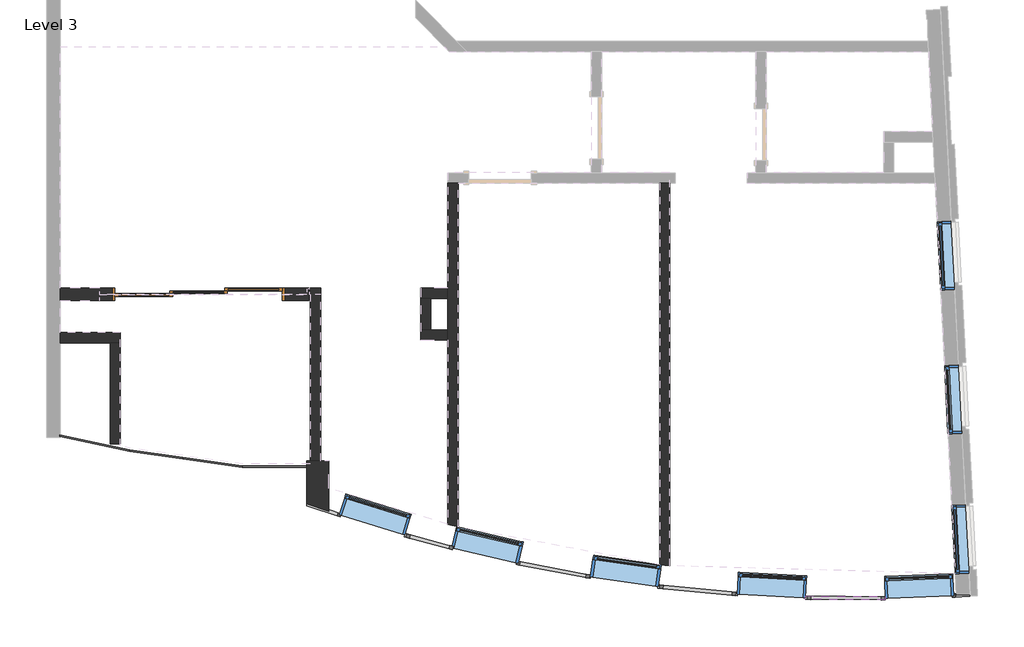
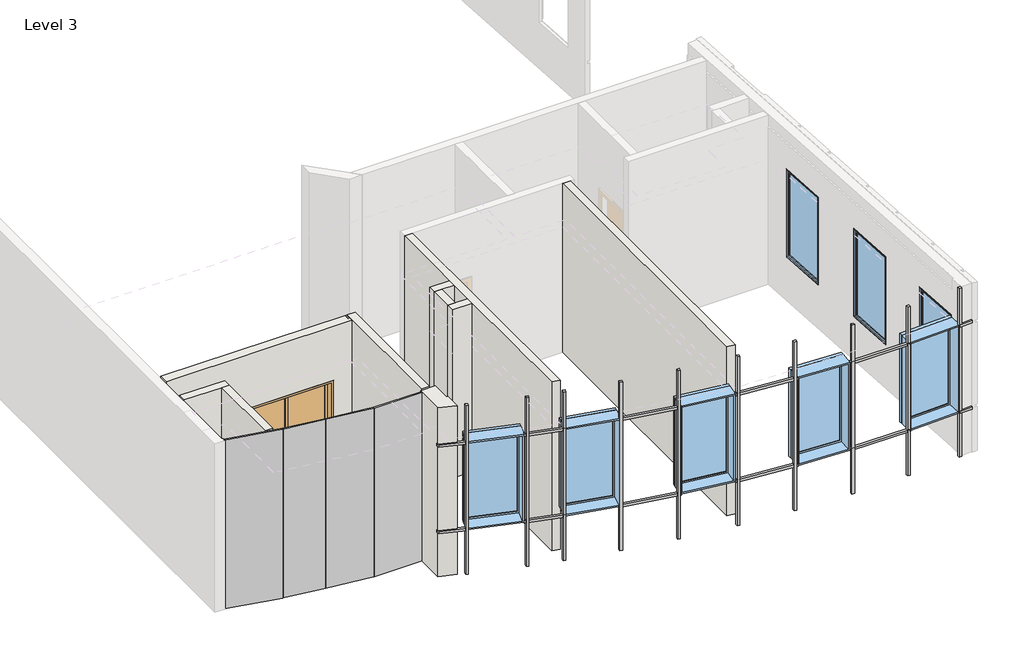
# One storey, part 1 of 5: 12 proxies, 11 walls, 8 windows, 4 plates, 1 door.
"""IFC4 building model written with IfcOpenShell, lengths in millimetres."""

from ifc_helpers import new_model, si_unit, point, frame, frame_2d, origin, place, context, project, spatial, polyline, circle_curve, trimmed, segment, composite_curve, outline, extrude, faceted_brep, transform, mapped, element, save
from ifc_brep_helpers import plane_surface, cylinder_surface, revolved_surface, advanced_brep
from components import sliding_door_3_panel_aus_type_1_135a2ec2, system_panel_glazed_6c35e85d, system_panel_glazed_aacc9fa0, system_panel_glazed_6f96cc8f, system_panel_glazed_6110bdf2, m_fixed_1000_x_1830mm_2_3397196e, m_fixed_1000_x_1830mm_2_ae03b894

model = new_model("IFC4")

# Units and contexts
model_context = context("Model", 3, world=origin())
ifc_project = project(units=[si_unit("LENGTHUNIT", "METRE", prefix="MILLI")], contexts=[model_context])

# Site, building, storey
site = spatial("IfcSite", under=ifc_project)
building = spatial("IfcBuilding", under=site)
storey = spatial("IfcBuildingStorey", under=building, Name="Level 3", Elevation=11500.0)

# Proxies
placement = place(None, origin())
element("IfcBuildingElementProxy", 1, Name="Reveal", ObjectType="Reveal", at=placement, inside=storey, context=model_context, shape_type="SweptSolid", body=[
    extrude(outline(composite_curve([segment(trimmed(circle_curve(frame_2d((11609.3245394, 10843.3737526)), 24025.0), [point((3560.252741, -11793.1690087))], [point((4041.9086857, -11958.7060275))], True, "CARTESIAN"), True, "CONTINUOUS"), segment(polyline([(4041.9086857, -11958.7060275), (4027.1474769, -12006.4887414)]), True, "CONTINUOUS"), segment(trimmed(circle_curve(frame_2d((11609.3245394, 10843.3737526)), 24075.0), [point((4027.1474769, -12006.4887414))], [point((3560.252741, -11846.2288923))], False, "CARTESIAN"), True, "CONTINUOUS"), segment(polyline([(3560.252741, -11846.2288923), (3560.252741, -11793.1690087)]), True, "CONTINUOUS")], self_intersect=False)), frame((0.0, 0.0, 12401.1018524), z_axis=(0.0, 0.0, 1.0), x_axis=(1.0, 0.0, 0.0)), (0.0, 0.0, 1.0), 50.0),
    extrude(outline(composite_curve([segment(trimmed(circle_curve(frame_2d((11609.3245394, 10843.3737526)), 24025.0), [point((13021.5895865, -13140.0816373))], [point((13258.6392504, -13124.9467139))], True, "CARTESIAN"), True, "CONTINUOUS"), segment(polyline([(13258.6392504, -13124.9467139), (13261.1814055, -13174.8900043)]), True, "CONTINUOUS"), segment(trimmed(circle_curve(frame_2d((11609.3245394, 10843.3737526)), 24075.0), [point((13261.1814055, -13174.8900043))], [point((13023.4897345, -13190.0563356))], False, "CARTESIAN"), True, "CONTINUOUS"), segment(polyline([(13023.4897345, -13190.0563356), (13021.5895865, -13140.0816373)]), True, "CONTINUOUS")], self_intersect=False)), frame((0.0, 0.0, 12401.1018524), z_axis=(0.0, 0.0, 1.0), x_axis=(1.0, 0.0, 0.0)), (0.0, 0.0, 1.0), 50.0),
    extrude(outline(composite_curve([segment(trimmed(circle_curve(frame_2d((11609.3245394, 10843.3737526)), 24025.0), [point((10855.1689112, -13169.7866868))], [point((12022.3116475, -13178.0763837))], True, "CARTESIAN"), True, "CONTINUOUS"), segment(polyline([(12022.3116475, -13178.0763837), (12024.2117955, -13228.051082)]), True, "CONTINUOUS"), segment(trimmed(circle_curve(frame_2d((11609.3245394, 10843.3737526)), 24075.0), [point((12024.2117955, -13228.051082))], [point((10852.5590945, -13219.7293528))], False, "CARTESIAN"), True, "CONTINUOUS"), segment(polyline([(10852.5590945, -13219.7293528), (10855.1689112, -13169.7866868)]), True, "CONTINUOUS")], self_intersect=False)), frame((0.0, 0.0, 12401.1018524), z_axis=(0.0, 0.0, 1.0), x_axis=(1.0, 0.0, 0.0)), (0.0, 0.0, 1.0), 50.0),
    extrude(outline(composite_curve([segment(trimmed(circle_curve(frame_2d((11609.3245394, 10843.3737526)), 24025.0), [point((8701.6675401, -13005.0256858))], [point((9856.5314794, -13117.6016343))], True, "CARTESIAN"), True, "CONTINUOUS"), segment(polyline([(9856.5314794, -13117.6016343), (9853.9216627, -13167.5443003)]), True, "CONTINUOUS"), segment(trimmed(circle_curve(frame_2d((11609.3245394, 10843.3737526)), 24075.0), [point((9853.9216627, -13167.5443003))], [point((8694.5830706, -13054.5321634))], False, "CARTESIAN"), True, "CONTINUOUS"), segment(polyline([(8694.5830706, -13054.5321634), (8701.6675401, -13005.0256858)]), True, "CONTINUOUS")], self_intersect=False)), frame((0.0, 0.0, 12401.1018524), z_axis=(0.0, 0.0, 1.0), x_axis=(1.0, 0.0, 0.0)), (0.0, 0.0, 1.0), 50.0),
    extrude(outline(composite_curve([segment(trimmed(circle_curve(frame_2d((11609.3245394, 10843.3737526)), 24025.0), [point((6655.6118444, -12665.3768636))], [point((7711.7519914, -12863.3669182))], True, "CARTESIAN"), True, "CONTINUOUS"), segment(polyline([(7711.7519914, -12863.3669182), (7704.6675219, -12912.8733958)]), True, "CONTINUOUS"), segment(trimmed(circle_curve(frame_2d((11609.3245394, 10843.3737526)), 24075.0), [point((7704.6675219, -12912.8733958))], [point((6644.2839105, -12714.0878372))], False, "CARTESIAN"), True, "CONTINUOUS"), segment(polyline([(6644.2839105, -12714.0878372), (6655.6118444, -12665.3768636)]), True, "CONTINUOUS")], self_intersect=False)), frame((0.0, 0.0, 12401.1018524), z_axis=(0.0, 0.0, 1.0), x_axis=(1.0, 0.0, 0.0)), (0.0, 0.0, 1.0), 50.0),
    extrude(outline(composite_curve([segment(trimmed(circle_curve(frame_2d((11609.3245394, 10843.3737526)), 24025.0), [point((4997.3564116, -12253.8663959))], [point((5681.6029373, -12438.8671535))], True, "CARTESIAN"), True, "CONTINUOUS"), segment(polyline([(5681.6029373, -12438.8671535), (5670.2750034, -12487.578127)]), True, "CONTINUOUS"), segment(trimmed(circle_curve(frame_2d((11609.3245394, 10843.3737526)), 24075.0), [point((5670.2750034, -12487.578127))], [point((4982.5952028, -12301.6491098))], False, "CARTESIAN"), True, "CONTINUOUS"), segment(polyline([(4982.5952028, -12301.6491098), (4997.3564116, -12253.8663959)]), True, "CONTINUOUS")], self_intersect=False)), frame((0.0, 0.0, 12401.1018524), z_axis=(0.0, 0.0, 1.0), x_axis=(1.0, 0.0, 0.0)), (0.0, 0.0, 1.0), 50.0),
])
element("IfcBuildingElementProxy", 2, Name="Reveal", ObjectType="Reveal", at=placement, inside=storey, context=model_context, shape_type="SweptSolid", body=[
    extrude(outline(composite_curve([segment(trimmed(circle_curve(frame_2d((11609.3245394, 10843.3737526)), 24025.0), [point((3560.252741, -11793.1690087))], [point((4041.9086857, -11958.7060275))], True, "CARTESIAN"), True, "CONTINUOUS"), segment(polyline([(4041.9086857, -11958.7060275), (4027.1474769, -12006.4887414)]), True, "CONTINUOUS"), segment(trimmed(circle_curve(frame_2d((11609.3245394, 10843.3737526)), 24075.0), [point((4027.1474769, -12006.4887414))], [point((3560.252741, -11846.2288923))], False, "CARTESIAN"), True, "CONTINUOUS"), segment(polyline([(3560.252741, -11846.2288923), (3560.252741, -11793.1690087)]), True, "CONTINUOUS")], self_intersect=False)), frame((0.0, 0.0, 14195.0), z_axis=(0.0, 0.0, 1.0), x_axis=(1.0, 0.0, 0.0)), (0.0, 0.0, 1.0), 50.0),
    extrude(outline(composite_curve([segment(trimmed(circle_curve(frame_2d((11609.3245394, 10843.3737526)), 24025.0), [point((13021.5895865, -13140.0816373))], [point((13258.6392504, -13124.9467139))], True, "CARTESIAN"), True, "CONTINUOUS"), segment(polyline([(13258.6392504, -13124.9467139), (13261.1814055, -13174.8900043)]), True, "CONTINUOUS"), segment(trimmed(circle_curve(frame_2d((11609.3245394, 10843.3737526)), 24075.0), [point((13261.1814055, -13174.8900043))], [point((13023.4897345, -13190.0563356))], False, "CARTESIAN"), True, "CONTINUOUS"), segment(polyline([(13023.4897345, -13190.0563356), (13021.5895865, -13140.0816373)]), True, "CONTINUOUS")], self_intersect=False)), frame((0.0, 0.0, 14195.0), z_axis=(0.0, 0.0, 1.0), x_axis=(1.0, 0.0, 0.0)), (0.0, 0.0, 1.0), 50.0),
    extrude(outline(composite_curve([segment(trimmed(circle_curve(frame_2d((11609.3245394, 10843.3737526)), 24025.0), [point((10855.1689112, -13169.7866868))], [point((12022.3116475, -13178.0763837))], True, "CARTESIAN"), True, "CONTINUOUS"), segment(polyline([(12022.3116475, -13178.0763837), (12024.2117955, -13228.051082)]), True, "CONTINUOUS"), segment(trimmed(circle_curve(frame_2d((11609.3245394, 10843.3737526)), 24075.0), [point((12024.2117955, -13228.051082))], [point((10852.5590945, -13219.7293528))], False, "CARTESIAN"), True, "CONTINUOUS"), segment(polyline([(10852.5590945, -13219.7293528), (10855.1689112, -13169.7866868)]), True, "CONTINUOUS")], self_intersect=False)), frame((0.0, 0.0, 14195.0), z_axis=(0.0, 0.0, 1.0), x_axis=(1.0, 0.0, 0.0)), (0.0, 0.0, 1.0), 50.0),
    extrude(outline(composite_curve([segment(trimmed(circle_curve(frame_2d((11609.3245394, 10843.3737526)), 24025.0), [point((8701.6675401, -13005.0256858))], [point((9856.5314794, -13117.6016343))], True, "CARTESIAN"), True, "CONTINUOUS"), segment(polyline([(9856.5314794, -13117.6016343), (9853.9216627, -13167.5443003)]), True, "CONTINUOUS"), segment(trimmed(circle_curve(frame_2d((11609.3245394, 10843.3737526)), 24075.0), [point((9853.9216627, -13167.5443003))], [point((8694.5830706, -13054.5321634))], False, "CARTESIAN"), True, "CONTINUOUS"), segment(polyline([(8694.5830706, -13054.5321634), (8701.6675401, -13005.0256858)]), True, "CONTINUOUS")], self_intersect=False)), frame((0.0, 0.0, 14195.0), z_axis=(0.0, 0.0, 1.0), x_axis=(1.0, 0.0, 0.0)), (0.0, 0.0, 1.0), 50.0),
    extrude(outline(composite_curve([segment(trimmed(circle_curve(frame_2d((11609.3245394, 10843.3737526)), 24025.0), [point((6655.6118444, -12665.3768636))], [point((7711.7519914, -12863.3669182))], True, "CARTESIAN"), True, "CONTINUOUS"), segment(polyline([(7711.7519914, -12863.3669182), (7704.6675219, -12912.8733958)]), True, "CONTINUOUS"), segment(trimmed(circle_curve(frame_2d((11609.3245394, 10843.3737526)), 24075.0), [point((7704.6675219, -12912.8733958))], [point((6644.2839105, -12714.0878372))], False, "CARTESIAN"), True, "CONTINUOUS"), segment(polyline([(6644.2839105, -12714.0878372), (6655.6118444, -12665.3768636)]), True, "CONTINUOUS")], self_intersect=False)), frame((0.0, 0.0, 14195.0), z_axis=(0.0, 0.0, 1.0), x_axis=(1.0, 0.0, 0.0)), (0.0, 0.0, 1.0), 50.0),
    extrude(outline(composite_curve([segment(trimmed(circle_curve(frame_2d((11609.3245394, 10843.3737526)), 24025.0), [point((4997.3564116, -12253.8663959))], [point((5681.6029373, -12438.8671535))], True, "CARTESIAN"), True, "CONTINUOUS"), segment(polyline([(5681.6029373, -12438.8671535), (5670.2750034, -12487.578127)]), True, "CONTINUOUS"), segment(trimmed(circle_curve(frame_2d((11609.3245394, 10843.3737526)), 24075.0), [point((5670.2750034, -12487.578127))], [point((4982.5952028, -12301.6491098))], False, "CARTESIAN"), True, "CONTINUOUS"), segment(polyline([(4982.5952028, -12301.6491098), (4997.3564116, -12253.8663959)]), True, "CONTINUOUS")], self_intersect=False)), frame((0.0, 0.0, 14195.0), z_axis=(0.0, 0.0, 1.0), x_axis=(1.0, 0.0, 0.0)), (0.0, 0.0, 1.0), 50.0),
])
element("IfcBuildingElementProxy", 3, Name="Reveal", ObjectType="Reveal", at=placement, inside=storey, context=model_context, shape_type="SweptSolid", body=[
    extrude(outline(polyline([(10930.2286023, -13172.0396044), (10928.7632845, -13222.0181283), (10878.7847607, -13220.5528105), (10880.2500785, -13170.5742866), (10930.2286023, -13172.0396044)])), frame((0.0, 0.0, 11500.0), z_axis=(0.0, 0.0, 1.0), x_axis=(1.0, 0.0, 0.0)), (0.0, 0.0, 1.0), 3500.0),
])
element("IfcBuildingElementProxy", 4, Name="Reveal", ObjectType="Reveal", at=placement, inside=storey, context=model_context, shape_type="SweptSolid", body=[
    extrude(outline(polyline([(9833.8791093, -13115.9468456), (9830.1322307, -13165.8062569), (9780.2728194, -13162.0593784), (9784.0196979, -13112.199967), (9833.8791093, -13115.9468456)])), frame((0.0, 0.0, 11500.0), z_axis=(0.0, 0.0, 1.0), x_axis=(1.0, 0.0, 0.0)), (0.0, 0.0, 1.0), 3500.0),
])
element("IfcBuildingElementProxy", 5, Name="Reveal", ObjectType="Reveal", at=placement, inside=storey, context=model_context, shape_type="SweptSolid", body=[
    extrude(outline(polyline([(8775.1009531, -13013.8772765), (8769.1508054, -13063.5219715), (8719.5061104, -13057.5718239), (8725.456258, -13007.9271288), (8775.1009531, -13013.8772765)])), frame((0.0, 0.0, 11500.0), z_axis=(0.0, 0.0, 1.0), x_axis=(1.0, 0.0, 0.0)), (0.0, 0.0, 1.0), 3500.0),
])
element("IfcBuildingElementProxy", 6, Name="Reveal", ObjectType="Reveal", at=placement, inside=storey, context=model_context, shape_type="SweptSolid", body=[
    extrude(outline(polyline([(5071.1541458, -12274.8782987), (5057.4970808, -12322.9769948), (5009.3983846, -12309.3199298), (5023.0554496, -12261.2212336), (5071.1541458, -12274.8782987)])), frame((0.0, 0.0, 11500.0), z_axis=(0.0, 0.0, 1.0), x_axis=(1.0, 0.0, 0.0)), (0.0, 0.0, 1.0), 3500.0),
])
element("IfcBuildingElementProxy", 7, Name="Reveal", ObjectType="Reveal", at=placement, inside=storey, context=model_context, shape_type="SweptSolid", body=[
    extrude(outline(polyline([(5700.3597547, -12443.6480659), (5688.0118038, -12492.0993621), (5639.5605075, -12479.7514112), (5651.9084585, -12431.3001149), (5700.3597547, -12443.6480659)])), frame((0.0, 0.0, 11500.0), z_axis=(0.0, 0.0, 1.0), x_axis=(1.0, 0.0, 0.0)), (0.0, 0.0, 1.0), 3500.0),
])
element("IfcBuildingElementProxy", 8, Name="Reveal", ObjectType="Reveal", at=placement, inside=storey, context=model_context, shape_type="SweptSolid", body=[
    extrude(outline(polyline([(6679.5658779, -12670.4249524), (6669.2553236, -12719.350329), (6620.329947, -12709.0397746), (6630.6405014, -12660.1143981), (6679.5658779, -12670.4249524)])), frame((0.0, 0.0, 11500.0), z_axis=(0.0, 0.0, 1.0), x_axis=(1.0, 0.0, 0.0)), (0.0, 0.0, 1.0), 3500.0),
])
element("IfcBuildingElementProxy", 9, Name="Reveal", ObjectType="Reveal", at=placement, inside=storey, context=model_context, shape_type="SweptSolid", body=[
    extrude(outline(polyline([(7698.414481, -12861.1834573), (7690.2239038, -12910.5080398), (7640.8993212, -12902.3174626), (7649.0898984, -12852.9928801), (7698.414481, -12861.1834573)])), frame((0.0, 0.0, 11500.0), z_axis=(0.0, 0.0, 1.0), x_axis=(1.0, 0.0, 0.0)), (0.0, 0.0, 1.0), 3500.0),
])
element("IfcBuildingElementProxy", 10, Name="Reveal", ObjectType="Reveal", at=placement, inside=storey, context=model_context, shape_type="SweptSolid", body=[
    extrude(outline(polyline([(12013.3333991, -13178.2420724), (12014.1221857, -13228.2358501), (11964.1284079, -13229.0246368), (11963.3396213, -13179.030859), (12013.3333991, -13178.2420724)])), frame((0.0, 0.0, 11500.0), z_axis=(0.0, 0.0, 1.0), x_axis=(1.0, 0.0, 0.0)), (0.0, 0.0, 1.0), 3500.0),
])
element("IfcBuildingElementProxy", 11, Name="Reveal", ObjectType="Reveal", at=placement, inside=storey, context=model_context, shape_type="SweptSolid", body=[
    extrude(outline(polyline([(13046.0274649, -13138.6431498), (13048.9655422, -13188.5567521), (12999.0519398, -13191.4948294), (12996.1138625, -13141.581227), (13046.0274649, -13138.6431498)])), frame((0.0, 0.0, 11500.0), z_axis=(0.0, 0.0, 1.0), x_axis=(1.0, 0.0, 0.0)), (0.0, 0.0, 1.0), 3500.0),
])
element("IfcBuildingElementProxy", 12, Name="Reveal", ObjectType="Reveal", at=placement, inside=storey, context=model_context, shape_type="SweptSolid", body=[
    extrude(outline(polyline([(4066.129757, -11966.7437937), (4050.3817395, -12014.1990352), (4002.926498, -11998.4510177), (4018.6745155, -11950.9957762), (4066.129757, -11966.7437937)])), frame((0.0, 0.0, 11500.0), z_axis=(0.0, 0.0, 1.0), x_axis=(1.0, 0.0, 0.0)), (0.0, 0.0, 1.0), 3500.0),
])

# Door
sliding_door_3_panel_aus_type_1_shape = sliding_door_3_panel_aus_type_1_135a2ec2(model_context)
element("IfcDoor", 13, ObjectType="Sliding Door - 3 Panel (AUS) : Type 1", at=placement, inside=storey, context=model_context, shape_type="MappedRepresentation", body=[
    mapped(sliding_door_3_panel_aus_type_1_shape, transform((2060.7158708, -8752.2362629, 11500.0), x_axis=(-1.0, 0.0, 0.0), y_axis=(0.0, -1.0, 0.0), z_axis=(0.0, 0.0, 1.0))),
])

# Plates
system_panel_glazed_shape = system_panel_glazed_6c35e85d(model_context)
element("IfcPlate", 14, ObjectType="System Panel : Glazed", at=placement, inside=storey, context=model_context, shape_type="MappedRepresentation", body=[
    mapped(system_panel_glazed_shape, transform((3090.252741, -11236.9456492, 11500.0), x_axis=(-1.0, 0.0, 0.0), y_axis=(0.0, -1.0, 0.0), z_axis=(0.0, 0.0, 1.0))),
])
system_panel_glazed_2_shape = system_panel_glazed_aacc9fa0(model_context)
element("IfcPlate", 15, ObjectType="System Panel : Glazed", at=placement, inside=storey, context=model_context, shape_type="MappedRepresentation", body=[
    mapped(system_panel_glazed_2_shape, transform((2183.3563773, -11175.5438696, 11500.0), x_axis=(-0.9902680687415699, 0.1391731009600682, 0.0), y_axis=(-0.1391731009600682, -0.9902680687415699, 0.0), z_axis=(0.0, 0.0, 1.0))),
])
system_panel_glazed_3_shape = system_panel_glazed_6f96cc8f(model_context)
element("IfcPlate", 16, ObjectType="System Panel : Glazed", at=placement, inside=storey, context=model_context, shape_type="MappedRepresentation", body=[
    mapped(system_panel_glazed_3_shape, transform((1360.2554668, -11059.8645806, 11500.0), x_axis=(-0.9902680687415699, 0.13917310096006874, 0.0), y_axis=(-0.13917310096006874, -0.9902680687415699, 0.0), z_axis=(0.0, 0.0, 1.0))),
])
system_panel_glazed_4_shape = system_panel_glazed_6110bdf2(model_context)
element("IfcPlate", 17, ObjectType="System Panel : Glazed", at=placement, inside=storey, context=model_context, shape_type="MappedRepresentation", body=[
    mapped(system_panel_glazed_4_shape, transform((462.0043948, -10896.7482224, 11500.0), x_axis=(-0.9781476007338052, 0.20791169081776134, 0.0), y_axis=(-0.20791169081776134, -0.9781476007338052, 0.0), z_axis=(0.0, 0.0, 1.0))),
])

# Walls
element("IfcWall", 18, ObjectType="Generic - 20cm-gypsum-kamposite", at=placement, inside=storey, context=model_context, shape_type="AdvancedBrep", body=[
    advanced_brep(
    [(3880.252741, -11930.821055, 11500.0), (3880.252741, -11592.6318887, 11500.0), (3880.252741, -11189.3160932, 11500.0), (3880.252741, -11189.3160932, 14759.0), (3880.252741, -11592.6318887, 14759.0), (3880.252741, -11624.3597587, 14759.0), (3880.252741, -11624.3597587, 15000.0), (3880.252741, -11930.821055, 15000.0), (3880.252741, -11930.821055, 14245.0), (3880.252741, -11904.4189785, 14245.0), (3880.252741, -11904.4189785, 14195.0), (3880.252741, -11930.821055, 14195.0), (3880.252741, -11930.821055, 12451.1018524), (3880.252741, -11904.4189785, 12451.1018524), (3880.252741, -11904.4189785, 12401.1018524), (3880.252741, -11930.821055, 12401.1018524), (3560.252741, -11189.3160932, 11500.0), (3560.252741, -11819.7006899, 11500.0), (3560.252741, -11819.7006899, 12401.1018524), (3560.252741, -11793.1690087, 12401.1018524), (3560.252741, -11793.1690087, 12451.1018524), (3560.252741, -11819.7006899, 12451.1018524), (3560.252741, -11819.7006899, 14195.0), (3560.252741, -11793.1690087, 14195.0), (3560.252741, -11793.1690087, 14245.0), (3560.252741, -11819.7006899, 14245.0), (3560.252741, -11819.7006899, 15000.0), (3560.252741, -11236.9456492, 15000.0), (3560.252741, -11236.9456492, 14759.0), (3560.252741, -11189.3160932, 14759.0), (3610.252741, -11189.3160932, 11500.0), (3760.252741, -11189.3160932, 11500.0), (3850.252741, -11614.0171205, 15000.0), (3850.252741, -11236.9456492, 15000.0), (3850.252741, -11236.9456492, 14759.0), (3850.252741, -11614.0171205, 14759.0)],
    [
        (0, 1),
        (1, 2),
        (2, 3),
        (3, 4),
        (4, 5),
        (5, 6),
        (6, 7),
        (7, 8),
        (8, 9),
        (9, 10),
        (10, 11),
        (11, 12),
        (12, 13),
        (13, 14),
        (14, 15),
        (15, 0),
        (16, 17),
        (17, 18),
        (18, 19),
        (19, 20),
        (20, 21),
        (21, 22),
        (22, 23),
        (23, 24),
        (24, 25),
        (25, 26),
        (26, 27),
        (27, 28),
        (28, 29),
        (29, 16),
        (0, 17, circle_curve(frame((11609.3245394, 10843.3737526, 11500.0), z_axis=(0.0, 0.0, -1.0), x_axis=(-0.33468074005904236, -0.942331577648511, 0.0)), 24050.0)),
        (16, 30),
        (30, 31),
        (31, 2),
        (29, 3),
        (26, 7, circle_curve(frame((11609.3245394, 10843.3737526, 15000.0), z_axis=(0.0, 0.0, 1.0), x_axis=(-0.33468074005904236, -0.942331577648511, 0.0)), 24050.0)),
        (6, 32, circle_curve(frame((11609.3245394, 10843.3737526, 15000.0), z_axis=(0.0, 0.0, -1.0), x_axis=(1.0, 0.0, 0.0)), 23760.0)),
        (32, 33),
        (33, 27),
        (25, 8, circle_curve(frame((11609.3245394, 10843.3737526, 14245.0), z_axis=(0.0, 0.0, 1.0), x_axis=(-0.33468074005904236, -0.942331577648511, 0.0)), 24050.0)),
        (15, 18, circle_curve(frame((11609.3245394, 10843.3737526, 12401.1018524), z_axis=(0.0, 0.0, -1.0), x_axis=(-0.33468074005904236, -0.942331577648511, 0.0)), 24050.0)),
        (21, 12, circle_curve(frame((11609.3245394, 10843.3737526, 12451.1018524), z_axis=(0.0, 0.0, 1.0), x_axis=(-0.33468074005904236, -0.942331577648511, 0.0)), 24050.0)),
        (11, 22, circle_curve(frame((11609.3245394, 10843.3737526, 14195.0), z_axis=(0.0, 0.0, -1.0), x_axis=(-0.33468074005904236, -0.942331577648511, 0.0)), 24050.0)),
        (20, 13, circle_curve(frame((11609.3245394, 10843.3737526, 12451.1018524), z_axis=(0.0, 0.0, 1.0), x_axis=(-0.3149603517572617, -0.9491048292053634, 0.0)), 24025.0)),
        (14, 19, circle_curve(frame((11609.3245394, 10843.3737526, 12401.1018524), z_axis=(0.0, 0.0, -1.0), x_axis=(-0.3149603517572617, -0.9491048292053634, 0.0)), 24025.0)),
        (24, 9, circle_curve(frame((11609.3245394, 10843.3737526, 14245.0), z_axis=(0.0, 0.0, 1.0), x_axis=(-0.3149603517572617, -0.9491048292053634, 0.0)), 24025.0)),
        (10, 23, circle_curve(frame((11609.3245394, 10843.3737526, 14195.0), z_axis=(0.0, 0.0, -1.0), x_axis=(-0.3149603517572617, -0.9491048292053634, 0.0)), 24025.0)),
        (34, 35),
        (35, 5, circle_curve(frame((11609.3245394, 10843.3737526, 14759.0), z_axis=(0.0, 0.0, 1.0), x_axis=(1.0, 0.0, 0.0)), 23760.0)),
        (28, 34),
        (35, 32),
        (34, 33),
    ],
    [
        plane_surface(frame((3880.252741, -11283.4147586, 11500.0), z_axis=(1.0, 0.0, 0.0), x_axis=(0.0, 1.0, 0.0))),
        plane_surface(frame((3560.252741, -11283.4147586, 11500.0), z_axis=(-1.0, 0.0, 0.0), x_axis=(0.0, -1.0, 0.0))),
        plane_surface(frame((3880.252741, -11706.4521039, 11500.0), z_axis=(0.0, 0.0, -1.0), x_axis=(-1.0, 0.0, 0.0))),
        plane_surface(frame((3880.252741, -11189.3160932, 11500.0), z_axis=(0.0, 1.0, 0.0), x_axis=(-1.0, 0.0, 0.0))),
        plane_surface(frame((3880.252741, -11189.3160932, 15000.0), z_axis=(0.0, 0.0, 1.0), x_axis=(-1.0, 0.0, 0.0))),
        cylinder_surface(frame((11609.3245394, 10843.3737526, 11500.0), z_axis=(0.0, 0.0, 1.0), x_axis=(-0.33468074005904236, -0.942331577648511, 0.0)), 24050.0),
        plane_surface(frame((11609.3245394, 10843.3737526, 12451.1018524), z_axis=(0.0, 0.0, -1.0), x_axis=(-0.3149603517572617, -0.9491048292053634, 0.0))),
        plane_surface(frame((11609.3245394, 10843.3737526, 12401.1018524), z_axis=(0.0, 0.0, 1.0), x_axis=(-0.3149603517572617, -0.9491048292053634, 0.0))),
        cylinder_surface(frame((11609.3245394, 10843.3737526, 12426.1018524), z_axis=(0.0, 0.0, -1.0), x_axis=(-0.3149603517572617, -0.9491048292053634, 0.0)), 24025.0),
        plane_surface(frame((11609.3245394, 10843.3737526, 14245.0), z_axis=(0.0, 0.0, -1.0), x_axis=(-0.3149603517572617, -0.9491048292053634, 0.0))),
        plane_surface(frame((11609.3245394, 10843.3737526, 14195.0), z_axis=(0.0, 0.0, 1.0), x_axis=(-0.3149603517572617, -0.9491048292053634, 0.0))),
        cylinder_surface(frame((11609.3245394, 10843.3737526, 14220.0), z_axis=(0.0, 0.0, -1.0), x_axis=(-0.3149603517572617, -0.9491048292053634, 0.0)), 24025.0),
        plane_surface(frame((-80.0421304, 14944.8648867, 14759.0), z_axis=(0.0, 0.0, 1.0), x_axis=(0.9323005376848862, -0.36168454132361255, 0.0))),
        revolved_surface(polyline([(35369.3245394, 10843.3737526, 14759.0), (35369.3245394, 10843.3737526, 15000.0)]), (11609.3245394, 10843.3737526, 15000.0), (0.0, 0.0, -1.0)),
        plane_surface(frame((3850.252741, -11614.0171205, 14759.0), z_axis=(1.0, 0.0, 0.0), x_axis=(0.0, 0.0, 1.0))),
        plane_surface(frame((3850.252741, -11236.9456492, 14759.0), z_axis=(0.0, 1.0, 0.0), x_axis=(0.0, 0.0, 1.0))),
    ],
    [
        (0, [[1, 2, 3, 4, 5, 6, 7, 8, 9, 10, 11, 12, 13, 14, 15, 16]]),
        (1, [[17, 18, 19, 20, 21, 22, 23, 24, 25, 26, 27, 28, 29, 30]]),
        (2, [[-2, -1, 31, -17, 32, 33, 34]]),
        (3, [[-34, -33, -32, -30, 35, -3]]),
        (4, [[36, -7, 37, 38, 39, -27]]),
        (5, [[-36, -26, 40, -8]]),
        (5, [[-31, -16, 41, -18]]),
        (5, [[42, -12, 43, -22]]),
        (6, [[44, -13, -42, -21]]),
        (7, [[45, -19, -41, -15]]),
        (8, [[-44, -20, -45, -14]]),
        (9, [[46, -9, -40, -25]]),
        (10, [[47, -23, -43, -11]]),
        (11, [[-46, -24, -47, -10]]),
        (12, [[48, 49, -5, -4, -35, -29, 50]]),
        (13, [[51, -37, -6, -49]]),
        (14, [[-48, 52, -38, -51]]),
        (15, [[-52, -50, -28, -39]]),
    ],
),
])
element("IfcWall", 19, ObjectType="Generic - 15cm-gypsu-2boith", at=placement, inside=storey, context=model_context, shape_type="SweptSolid", body=[
    extrude(outline(composite_curve([segment(polyline([(8720.2907737, -12710.1054788), (8720.2907737, -7123.7981953), (8870.2907737, -7123.7981953), (8870.2907737, -12728.0198004)]), True, "CONTINUOUS"), segment(trimmed(circle_curve(frame_2d((11609.3245394, 10843.3737526)), 23730.0), [point((8870.2907737, -12728.0198004))], [point((8720.2907737, -12710.1054788))], False, "CARTESIAN"), True, "CONTINUOUS")], self_intersect=False)), frame((0.0, 0.0, 11500.0), z_axis=(0.0, 0.0, 1.0), x_axis=(1.0, 0.0, 0.0)), (0.0, 0.0, 1.0), 3500.0),
])
element("IfcWall", 20, ObjectType="Generic - 15cm-gypsu-2boith", at=placement, inside=storey, context=model_context, shape_type="AdvancedBrep", body=[
    advanced_brep(
    [(5620.2907737, -7123.7981953, 11500.0), (5620.2907737, -8662.29082, 11500.0), (5620.2907737, -8812.29082, 11500.0), (5620.2907737, -9272.4272222, 11500.0), (5620.2907737, -9422.4272222, 11500.0), (5620.2907737, -12118.4287584, 11500.0), (5620.2907737, -12118.4287584, 15000.0), (5620.2907737, -9422.4272222, 15000.0), (5620.2907737, -9272.4272222, 15000.0), (5620.2907737, -8812.29082, 15000.0), (5620.2907737, -8662.29082, 15000.0), (5620.2907737, -7123.7981953, 15000.0), (5770.2907737, -7123.7981953, 11500.0), (5770.2907737, -7123.7981953, 15000.0), (5770.2907737, -12157.0302587, 15000.0), (5770.2907737, -12157.0302587, 11500.0)],
    [
        (0, 1),
        (1, 2),
        (2, 3),
        (3, 4),
        (4, 5),
        (5, 6),
        (6, 7),
        (7, 8),
        (8, 9),
        (9, 10),
        (10, 11),
        (11, 0),
        (12, 13),
        (13, 14),
        (14, 15),
        (15, 12),
        (0, 12),
        (15, 5, circle_curve(frame((11609.3245394, 10843.3737526, 11500.0), z_axis=(0.0, 0.0, -1.0), x_axis=(-0.33468074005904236, -0.942331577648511, 0.0)), 23730.0)),
        (6, 14, circle_curve(frame((11609.3245394, 10843.3737526, 15000.0), z_axis=(0.0, 0.0, 1.0), x_axis=(-0.33468074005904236, -0.942331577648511, 0.0)), 23730.0)),
        (13, 11),
    ],
    [
        plane_surface(frame((5620.2907737, -7123.7981953, 11500.0), z_axis=(-1.0, 0.0, 0.0), x_axis=(0.0, -1.0, 0.0))),
        plane_surface(frame((5770.2907737, -7123.7981953, 11500.0), z_axis=(1.0, 0.0, 0.0), x_axis=(0.0, 1.0, 0.0))),
        plane_surface(frame((5620.2907737, -7048.7981953, 11500.0), z_axis=(0.0, 0.0, -1.0), x_axis=(1.0, 0.0, 0.0))),
        plane_surface(frame((5620.2907737, -12303.036436, 15000.0), z_axis=(0.0, 0.0, 1.0), x_axis=(1.0, 0.0, 0.0))),
        cylinder_surface(frame((11609.3245394, 10843.3737526, 11500.0), z_axis=(0.0, 0.0, -1.0), x_axis=(-0.33468074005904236, -0.942331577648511, 0.0)), 23730.0),
        plane_surface(frame((8730.3395953, -7123.7981953, 11500.0), z_axis=(0.0, 1.0, 0.0), x_axis=(1.0, 0.0, 0.0))),
    ],
    [
        (0, [[1, 2, 3, 4, 5, 6, 7, 8, 9, 10, 11, 12]]),
        (1, [[13, 14, 15, 16]]),
        (2, [[-5, -4, -3, -2, -1, 17, -16, 18]]),
        (3, [[-11, -10, -9, -8, -7, 19, -14, 20]]),
        (4, [[-6, -18, -15, -19]]),
        (5, [[-12, -20, -13, -17]]),
    ],
),
])
element("IfcWall", 21, ObjectType="Generic - 15cm-gypsu-2boith", at=placement, inside=storey, context=model_context, shape_type="Brep", body=[
    faceted_brep([(5620.2907737, -9272.4272222, 11500.0), (5373.5699518, -9272.4272222, 11500.0), (5223.5699518, -9272.4272222, 11500.0), (5223.5699518, -9272.4272222, 15000.0), (5373.5699518, -9272.4272222, 15000.0), (5620.2907737, -9272.4272222, 15000.0), (5620.2907737, -9422.4272222, 11500.0), (5620.2907737, -9422.4272222, 15000.0), (5223.5699518, -9422.4272222, 15000.0), (5223.5699518, -9422.4272222, 11500.0)], [[[0, 1, 2, 3, 4, 5]], [[6, 7, 8, 9]], [[2, 1, 0, 6, 9]], [[5, 4, 3, 8, 7]], [[0, 5, 7, 6]], [[3, 2, 9, 8]]]),
])
element("IfcWall", 22, ObjectType="Generic - 15cm-gypsu-2boith", at=placement, inside=storey, context=model_context, shape_type="SweptSolid", body=[
    extrude(outline(polyline([(5373.5699518, -8812.29082), (5373.5699518, -9272.4272222), (5223.5699518, -9272.4272222), (5223.5699518, -8812.29082), (5373.5699518, -8812.29082)])), frame((0.0, 0.0, 11500.0), z_axis=(0.0, 0.0, 1.0), x_axis=(1.0, 0.0, 0.0)), (0.0, 0.0, 1.0), 3500.0),
])
element("IfcWall", 23, ObjectType="Generic - 15cm-gypsu-2boith", at=placement, inside=storey, context=model_context, shape_type="Brep", body=[
    faceted_brep([(5223.5699518, -8812.29082, 11500.0), (5373.5699518, -8812.29082, 11500.0), (5620.2907737, -8812.29082, 11500.0), (5620.2907737, -8812.29082, 15000.0), (5373.5699518, -8812.29082, 15000.0), (5223.5699518, -8812.29082, 15000.0), (5223.5699518, -8662.29082, 11500.0), (5223.5699518, -8662.29082, 15000.0), (5620.2907737, -8662.29082, 15000.0), (5620.2907737, -8662.29082, 11500.0)], [[[0, 1, 2, 3, 4, 5]], [[6, 7, 8, 9]], [[2, 1, 0, 6, 9]], [[5, 4, 3, 8, 7]], [[0, 5, 7, 6]], [[3, 2, 9, 8]]]),
])
element("IfcWall", 24, ObjectType="Generic - 10cm-gypsu-2boith", at=placement, inside=storey, context=model_context, shape_type="SweptSolid", body=[
    extrude(outline(polyline([(3557.6788606, -8673.6141586), (3600.5670169, -8673.6141586), (3600.5670169, -8773.6141586), (3557.6788606, -8773.6141586), (3557.6788606, -8673.6141586)])), frame((0.0, 0.0, 11500.0), z_axis=(0.0, 0.0, 1.0), x_axis=(1.0, 0.0, 0.0)), (0.0, 0.0, 1.0), 3500.0),
])
element("IfcWall", 25, ObjectType="Generic - 15cm-gypsu-2boith", at=placement, inside=storey, context=model_context, shape_type="Brep", body=[
    faceted_brep([(829.9393362, -9312.1185157, 11500.0), (-50.0421304, -9312.1185157, 11500.0), (-50.0421304, -9312.1185157, 15000.0), (829.9393362, -9312.1185157, 15000.0), (829.9393362, -9462.1185157, 11500.0), (829.9393362, -9462.1185157, 15000.0), (679.9393362, -9462.1185157, 15000.0), (-50.0421304, -9462.1185157, 15000.0), (-50.0421304, -9462.1185157, 11500.0), (679.9393362, -9462.1185157, 11500.0)], [[[0, 1, 2, 3]], [[4, 5, 6, 7, 8, 9]], [[1, 0, 4, 9, 8]], [[3, 2, 7, 6, 5]], [[2, 1, 8, 7]], [[0, 3, 5, 4]]]),
])
element("IfcWall", 26, ObjectType="Generic - 15cm-gypsu-2boith", at=placement, inside=storey, context=model_context, shape_type="SweptSolid", body=[
    extrude(outline(polyline([(679.9393362, -10941.9462756), (679.9393362, -9462.1185157), (829.9393362, -9462.1185157), (829.9393362, -10941.9462756), (679.9393362, -10941.9462756)])), frame((0.0, 0.0, 11500.0), z_axis=(0.0, 0.0, 1.0), x_axis=(1.0, 0.0, 0.0)), (0.0, 0.0, 1.0), 3500.0),
])
element("IfcWall", 27, ObjectType="Generic - 18cm-gypsu-2boith 2", at=placement, inside=storey, context=model_context, shape_type="SweptSolid", body=[
    extrude(outline(polyline([(15000.0, 3589.9578696), (15000.0, -50.0421304), (11500.0, -50.0421304), (11500.0, 709.9578696), (13883.0, 709.9578696), (13883.0, 3239.9578696), (11500.0, 3239.9578696), (11500.0, 3589.9578696), (15000.0, 3589.9578696)])), frame((0.0, -8842.2362629, 0.0), z_axis=(0.0, 1.0, 0.0), x_axis=(0.0, 0.0, 1.0)), (0.0, 0.0, 1.0), 180.0),
])
element("IfcWall", 28, ObjectType="Generic - 15cm-granit 2", at=placement, inside=storey, context=model_context, shape_type="SweptSolid", body=[
    extrude(outline(polyline([(3610.252741, -11189.3160932), (3610.252741, -8662.29082), (3760.252741, -8662.29082), (3760.252741, -11189.3160932), (3610.252741, -11189.3160932)])), frame((0.0, 0.0, 11500.0), z_axis=(0.0, 0.0, 1.0), x_axis=(1.0, 0.0, 0.0)), (0.0, 0.0, 1.0), 3500.0),
])

# Windows
m_fixed_1000_x_1830mm_2_shape = m_fixed_1000_x_1830mm_2_3397196e(model_context)
element("IfcWindow", 29, ObjectType="M_Fixed : 1000 x 1830mm 2", at=placement, inside=storey, context=model_context, shape_type="MappedRepresentation", body=[
    mapped(m_fixed_1000_x_1830mm_2_shape, transform((13131.5568795, -12339.6994395, 12095.0), x_axis=(-0.05083502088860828, 0.9987070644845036, 0.0), y_axis=(-0.9987070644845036, -0.05083502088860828, 0.0), z_axis=(0.0, 0.0, 1.0))),
])
element("IfcWindow", 30, ObjectType="M_Fixed : 1000 x 1830mm 2", at=placement, inside=storey, context=model_context, shape_type="MappedRepresentation", body=[
    mapped(m_fixed_1000_x_1830mm_2_shape, transform((13027.3450867, -10292.3499573, 12095.0), x_axis=(-0.05083502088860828, 0.9987070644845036, 0.0), y_axis=(-0.9987070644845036, -0.05083502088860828, 0.0), z_axis=(0.0, 0.0, 1.0))),
])
element("IfcWindow", 31, ObjectType="M_Fixed : 1000 x 1830mm 2", at=placement, inside=storey, context=model_context, shape_type="MappedRepresentation", body=[
    mapped(m_fixed_1000_x_1830mm_2_shape, transform((12920.0831926, -8185.0780513, 12095.0), x_axis=(-0.05083502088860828, 0.9987070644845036, 0.0), y_axis=(-0.9987070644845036, -0.05083502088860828, 0.0), z_axis=(0.0, 0.0, 1.0))),
])
m_fixed_1000_x_1830mm_2_2_shape = m_fixed_1000_x_1830mm_2_ae03b894(model_context)
element("IfcWindow", 32, ObjectType="M_Fixed : 1000 x 1830mm 2", at=placement, inside=storey, context=model_context, shape_type="MappedRepresentation", body=[
    mapped(m_fixed_1000_x_1830mm_2_2_shape, transform((12517.3154635, -13037.1725082, 12095.0), x_axis=(0.9992779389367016, 0.037994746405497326, 0.0), y_axis=(-0.037994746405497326, 0.9992779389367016, 0.0), z_axis=(0.0, 0.0, 1.0))),
])
element("IfcWindow", 33, ObjectType="M_Fixed : 1000 x 1830mm 2", at=placement, inside=storey, context=model_context, shape_type="MappedRepresentation", body=[
    mapped(m_fixed_1000_x_1830mm_2_2_shape, transform((10362.2164894, -13021.8657967, 12095.0), x_axis=(0.998637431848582, -0.05218505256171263, 0.0), y_axis=(0.05218505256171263, 0.998637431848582, 0.0), z_axis=(0.0, 0.0, 1.0))),
])
element("IfcWindow", 34, ObjectType="M_Fixed : 1000 x 1830mm 2", at=placement, inside=storey, context=model_context, shape_type="MappedRepresentation", body=[
    mapped(m_fixed_1000_x_1830mm_2_2_shape, transform((8223.991369, -12813.4319607, 12095.0), x_axis=(0.989915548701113, -0.14165876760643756, 0.0), y_axis=(0.14165876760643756, 0.989915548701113, 0.0), z_axis=(0.0, 0.0, 1.0))),
])
element("IfcWindow", 35, ObjectType="M_Fixed : 1000 x 1830mm 2", at=placement, inside=storey, context=model_context, shape_type="MappedRepresentation", body=[
    mapped(m_fixed_1000_x_1830mm_2_2_shape, transform((6196.24035, -12433.2981915, 12095.0), x_axis=(0.9740089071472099, -0.22650971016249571, 0.0), y_axis=(0.22650971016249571, 0.9740089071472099, 0.0), z_axis=(0.0, 0.0, 1.0))),
])
element("IfcWindow", 36, ObjectType="M_Fixed : 1000 x 1830mm 2", at=placement, inside=storey, context=model_context, shape_type="MappedRepresentation", body=[
    mapped(m_fixed_1000_x_1830mm_2_2_shape, transform((4555.6405167, -11989.7267583, 12095.0), x_axis=(0.9554477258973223, -0.2951603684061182, 0.0), y_axis=(0.2951603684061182, 0.9554477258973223, 0.0), z_axis=(0.0, 0.0, 1.0))),
])

save(model, "model.ifc")
